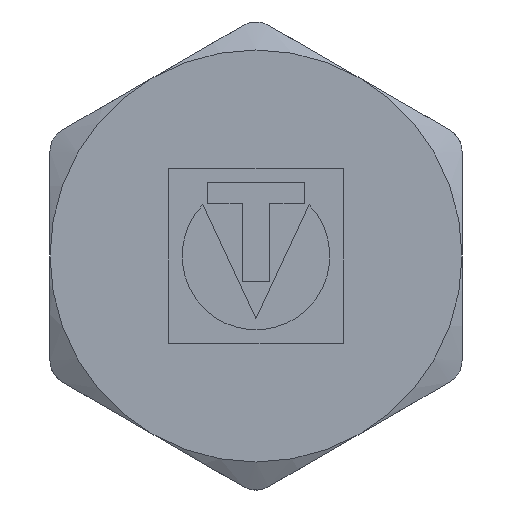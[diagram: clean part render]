
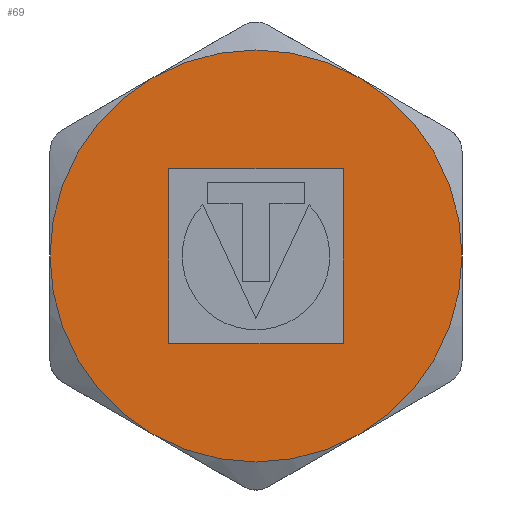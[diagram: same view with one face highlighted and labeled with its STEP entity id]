
A CAD part, front view. The second image highlights one B-rep face of the part: STEP entity #69.
In plain terms, the highlighted planar face has unit normal (0, -1, 0).
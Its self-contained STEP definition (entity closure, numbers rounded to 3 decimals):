
#69=ADVANCED_FACE('',(#268,#270),#272,.F.);
#268=FACE_BOUND('',#269,.T.);
#269=EDGE_LOOP('',(#528,#529,#530,#531));
#270=FACE_BOUND('',#271,.T.);
#271=EDGE_LOOP('',(#532,#533,#534,#535));
#272=PLANE('',#273);
#273=AXIS2_PLACEMENT_3D('',#274,#275,#276);
#274=CARTESIAN_POINT('',(0.,0.,0.));
#275=DIRECTION('',(0.,1.,0.));
#276=DIRECTION('',(-1.,0.,0.));
#528=ORIENTED_EDGE('',*,*,#682,.T.);
#529=ORIENTED_EDGE('',*,*,#680,.T.);
#530=ORIENTED_EDGE('',*,*,#679,.T.);
#531=ORIENTED_EDGE('',*,*,#681,.T.);
#532=ORIENTED_EDGE('',*,*,#683,.F.);
#533=ORIENTED_EDGE('',*,*,#684,.F.);
#534=ORIENTED_EDGE('',*,*,#685,.F.);
#535=ORIENTED_EDGE('',*,*,#686,.F.);
#679=EDGE_CURVE('',#783,#788,#820,.F.);
#680=EDGE_CURVE('',#794,#783,#821,.F.);
#681=EDGE_CURVE('',#788,#810,#822,.F.);
#682=EDGE_CURVE('',#810,#794,#823,.F.);
#683=EDGE_CURVE('',#824,#825,#826,.F.);
#684=EDGE_CURVE('',#827,#824,#828,.F.);
#685=EDGE_CURVE('',#829,#827,#830,.F.);
#686=EDGE_CURVE('',#825,#829,#831,.F.);
#783=VERTEX_POINT('',#1684);
#788=VERTEX_POINT('',#1756);
#794=VERTEX_POINT('',#1869);
#810=VERTEX_POINT('',#2090);
#820=CIRCLE('',#2302,33.);
#821=CIRCLE('',#2306,33.);
#822=CIRCLE('',#2310,33.);
#823=CIRCLE('',#2314,33.);
#824=VERTEX_POINT('',#2318);
#825=VERTEX_POINT('',#2319);
#826=LINE('',#2320,#2321);
#827=VERTEX_POINT('',#2323);
#828=LINE('',#2324,#2325);
#829=VERTEX_POINT('',#2327);
#830=LINE('',#2328,#2329);
#831=LINE('',#2331,#2332);
#1684=CARTESIAN_POINT('',(-33.,0.,0.));
#1756=CARTESIAN_POINT('',(-16.5,0.,-28.579));
#1869=CARTESIAN_POINT('',(-16.5,0.,28.579));
#2090=CARTESIAN_POINT('',(33.,0.,0.));
#2302=AXIS2_PLACEMENT_3D('',#2303,#2304,#2305);
#2303=CARTESIAN_POINT('',(0.,0.,0.));
#2304=DIRECTION('',(0.,1.,0.));
#2305=DIRECTION('',(-0.5,0.,-0.866));
#2306=AXIS2_PLACEMENT_3D('',#2307,#2308,#2309);
#2307=CARTESIAN_POINT('',(0.,0.,0.));
#2308=DIRECTION('',(0.,1.,0.));
#2309=DIRECTION('',(-1.,0.,0.));
#2310=AXIS2_PLACEMENT_3D('',#2311,#2312,#2313);
#2311=CARTESIAN_POINT('',(0.,0.,0.));
#2312=DIRECTION('',(0.,1.,0.));
#2313=DIRECTION('',(1.,0.,0.));
#2314=AXIS2_PLACEMENT_3D('',#2315,#2316,#2317);
#2315=CARTESIAN_POINT('',(0.,0.,0.));
#2316=DIRECTION('',(0.,1.,0.));
#2317=DIRECTION('',(-0.5,0.,0.866));
#2318=CARTESIAN_POINT('',(-14.01,0.,14.01));
#2319=CARTESIAN_POINT('',(-14.01,0.,-14.004));
#2320=CARTESIAN_POINT('',(-14.01,0.,-14.004));
#2321=VECTOR('',#2322,1.);
#2322=DIRECTION('',(0.,0.,1.));
#2323=CARTESIAN_POINT('',(14.01,0.,14.01));
#2324=CARTESIAN_POINT('',(-14.01,0.,14.01));
#2325=VECTOR('',#2326,1.);
#2326=DIRECTION('',(1.,0.,0.));
#2327=CARTESIAN_POINT('',(14.004,0.,-14.004));
#2328=CARTESIAN_POINT('',(14.01,0.,14.01));
#2329=VECTOR('',#2330,1.);
#2330=DIRECTION('',(0.,0.,-1.));
#2331=CARTESIAN_POINT('',(14.004,0.,-14.004));
#2332=VECTOR('',#2333,1.);
#2333=DIRECTION('',(-1.,0.,0.));
